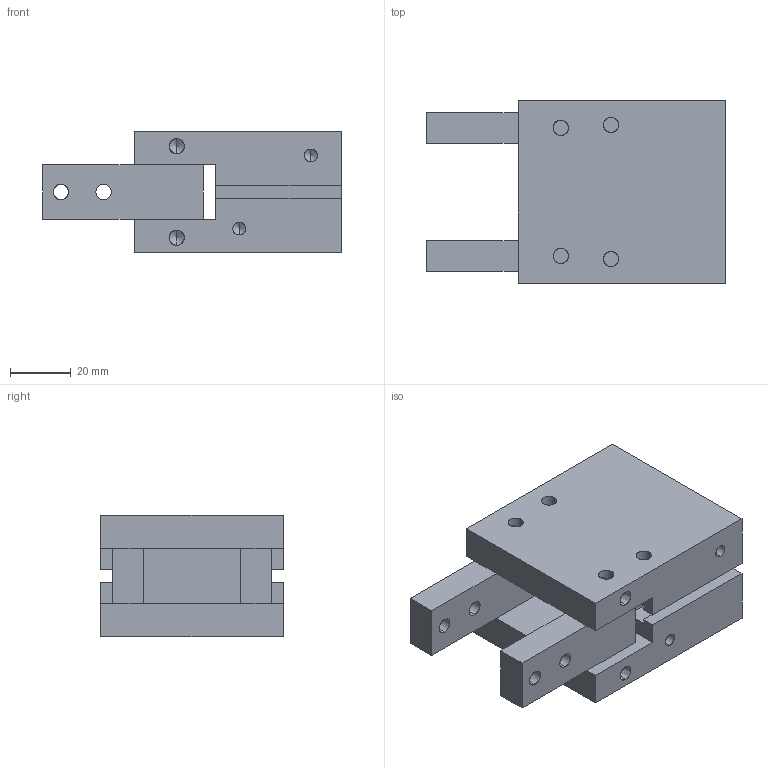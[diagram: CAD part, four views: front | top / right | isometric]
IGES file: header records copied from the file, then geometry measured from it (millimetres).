
Start section: SolidWorks IGES file using analytic representation for surfaces
Global section: file name: D:\MI\新增資料夾\Angular 2 Finger Gripper\FCHY-32.IGS; native system: SolidWorks 2013; preprocessor: SolidWorks 2013; author: Sam Lin; date: 160329.142307; units: millimetre
Bounding box: 98 x 60 x 40 mm (x, y, z)
Surface area: 31099.3 mm2 (no closed solid volume)
Topology: 0 solids, 0 shells, 121 faces, 2040 edges, 2020 vertices
Faces by surface type: revolution 78, bspline 43
